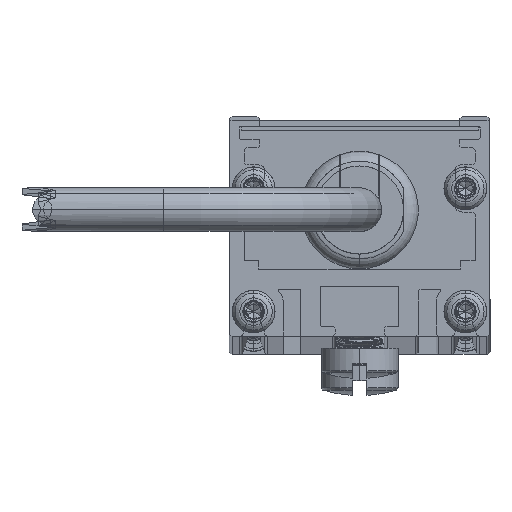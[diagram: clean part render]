
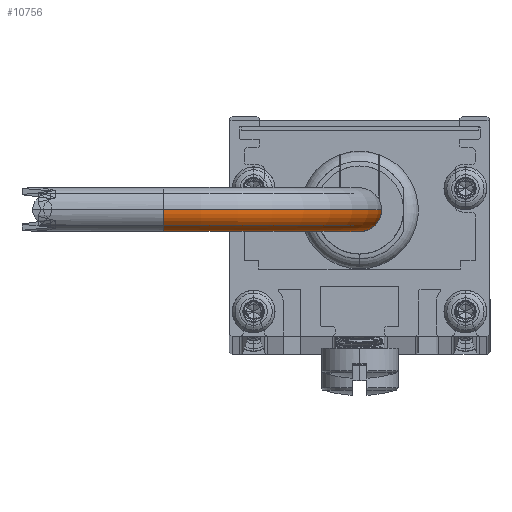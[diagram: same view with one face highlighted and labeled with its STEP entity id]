
A CAD part, top view. The second image highlights one B-rep face of the part: STEP entity #10756.
In plain terms, the highlighted toroidal (fillet/blend) face has major radius 25.4 mm and minor radius 2.845 mm.
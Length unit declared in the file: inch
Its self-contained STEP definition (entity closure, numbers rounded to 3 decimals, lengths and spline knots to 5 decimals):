
#69 = AXIS2_PLACEMENT_3D ( 'NONE', #1308, #13138, #14770 ) ;
#736 = DIRECTION ( 'NONE',  ( 0., -1., 0. ) ) ;
#948 = CIRCLE ( 'NONE', #16037, 0.112 ) ;
#1056 = CARTESIAN_POINT ( 'NONE',  ( -0.112, 0., -1. ) ) ;
#1308 = CARTESIAN_POINT ( 'NONE',  ( 1., 0., -1. ) ) ;
#2319 = TOROIDAL_SURFACE ( 'NONE', #8205, 1., 0.112 ) ;
#3058 = ORIENTED_EDGE ( 'NONE', *, *, #6358, .F. ) ;
#3357 = CARTESIAN_POINT ( 'NONE',  ( 0.112, 0., -1. ) ) ;
#3747 = EDGE_CURVE ( 'NONE', #15769, #6050, #948, .T. ) ;
#3816 = DIRECTION ( 'NONE',  ( -1., 0., 0. ) ) ;
#4385 = DIRECTION ( 'NONE',  ( 1., 0., 0. ) ) ;
#6050 = VERTEX_POINT ( 'NONE', #3357 ) ;
#6145 = CIRCLE ( 'NONE', #7487, 0.112 ) ;
#6358 = EDGE_CURVE ( 'NONE', #6050, #9907, #13525, .T. ) ;
#7487 = AXIS2_PLACEMENT_3D ( 'NONE', #16876, #3816, #11147 ) ;
#7802 = VERTEX_POINT ( 'NONE', #15740 ) ;
#8161 = CIRCLE ( 'NONE', #12920, 1.112 ) ;
#8205 = AXIS2_PLACEMENT_3D ( 'NONE', #10764, #736, #11964 ) ;
#8737 = CARTESIAN_POINT ( 'NONE',  ( 1., 0., -1. ) ) ;
#9512 = CARTESIAN_POINT ( 'NONE',  ( 0., 0., -1. ) ) ;
#9907 = VERTEX_POINT ( 'NONE', #15934 ) ;
#10179 = EDGE_CURVE ( 'NONE', #7802, #9907, #6145, .T. ) ;
#10430 = EDGE_LOOP ( 'NONE', ( #13833, #16695, #12802, #3058 ) ) ;
#10756 = ADVANCED_FACE ( 'NONE', ( #13404 ), #2319, .T. ) ;
#10764 = CARTESIAN_POINT ( 'NONE',  ( 1., 0., -1. ) ) ;
#11147 = DIRECTION ( 'NONE',  ( 0., 0., 1. ) ) ;
#11964 = DIRECTION ( 'NONE',  ( 0., 0., -1. ) ) ;
#12802 = ORIENTED_EDGE ( 'NONE', *, *, #10179, .T. ) ;
#12920 = AXIS2_PLACEMENT_3D ( 'NONE', #8737, #12968, #4385 ) ;
#12968 = DIRECTION ( 'NONE',  ( 0., -1., 0. ) ) ;
#13138 = DIRECTION ( 'NONE',  ( 0., -1., 0. ) ) ;
#13404 = FACE_OUTER_BOUND ( 'NONE', #10430, .T. ) ;
#13525 = CIRCLE ( 'NONE', #69, 0.888 ) ;
#13833 = ORIENTED_EDGE ( 'NONE', *, *, #3747, .F. ) ;
#14770 = DIRECTION ( 'NONE',  ( 1., 0., 0. ) ) ;
#15325 = EDGE_CURVE ( 'NONE', #15769, #7802, #8161, .T. ) ;
#15368 = DIRECTION ( 'NONE',  ( 0., 0., 1. ) ) ;
#15740 = CARTESIAN_POINT ( 'NONE',  ( 1., 0., -2.112 ) ) ;
#15769 = VERTEX_POINT ( 'NONE', #1056 ) ;
#15934 = CARTESIAN_POINT ( 'NONE',  ( 1., 0., -1.888 ) ) ;
#16037 = AXIS2_PLACEMENT_3D ( 'NONE', #9512, #15368, #16704 ) ;
#16695 = ORIENTED_EDGE ( 'NONE', *, *, #15325, .T. ) ;
#16704 = DIRECTION ( 'NONE',  ( 1., 0., 0. ) ) ;
#16876 = CARTESIAN_POINT ( 'NONE',  ( 1., 0., -2. ) ) ;
